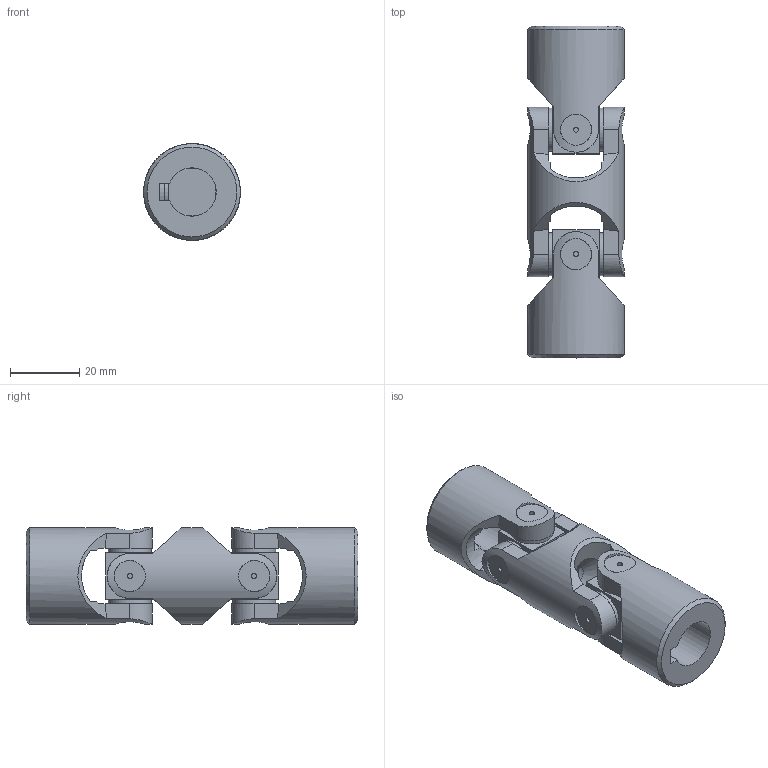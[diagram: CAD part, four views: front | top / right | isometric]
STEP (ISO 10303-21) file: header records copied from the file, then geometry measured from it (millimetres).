
FILE_DESCRIPTION(/* description */ (''),/* implementation_level */ '2;1');
FILE_NAME(/* name */ '\\SRV2016\Societa\Stefano\Disegni 3D\00Catalogo 3D\02Doppi GD-GBD\SG0D142C.stp',/* time_stamp */ '2021-11-22T17:08:31+01:00',/* author */ ('acquisti'),/* organization */ (''),/* preprocessor_version */ 'ST-DEVELOPER v15.6',/* originating_system */ 'Autodesk Inventor 2015',/* authorisation */ '');
FILE_SCHEMA (('AUTOMOTIVE_DESIGN { 1 0 10303 214 3 1 1 }'));
Length unit declared in the file: millimetre
Products named in the file (4): 05G MOD; 05G SFE; 05G MOC; Ø22_05GD-00_SG0D1400
Assembly tree (5 placements, depth 2):
  Ø22_05GD-00_SG0D1400
    05G MOD
    05G SFE  x2
    05G MOC  x2
Bounding box: 28 x 96 x 28 mm (x, y, z)
Volume: 37201.1 mm3; surface area: 16429.6 mm2
Topology: 5 solids, 5 shells, 143 faces, 353 edges, 240 vertices
Faces by surface type: plane 76, cylinder 41, cone 22, torus 4
Full cylindrical faces by diameter (mm): 1.5 x8, 9 x8, 12.5 x8, 14.5 x2, 28 x3
Entity records: 3372 total; most frequent: CARTESIAN_POINT 1206, ORIENTED_EDGE 416, DIRECTION 413, EDGE_CURVE 208, AXIS2_PLACEMENT_3D 178, VERTEX_POINT 156, EDGE_LOOP 140, FACE_OUTER_BOUND 97
